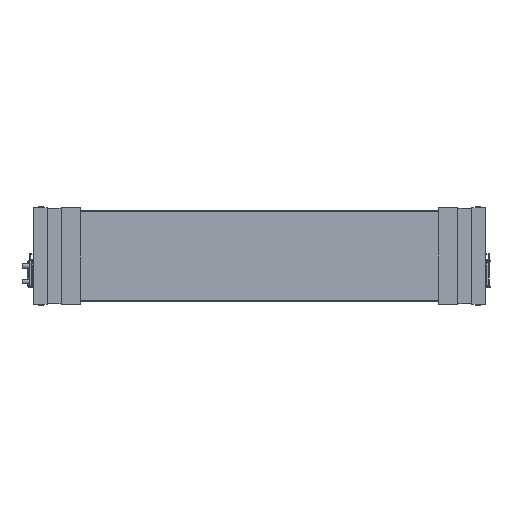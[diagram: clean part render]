
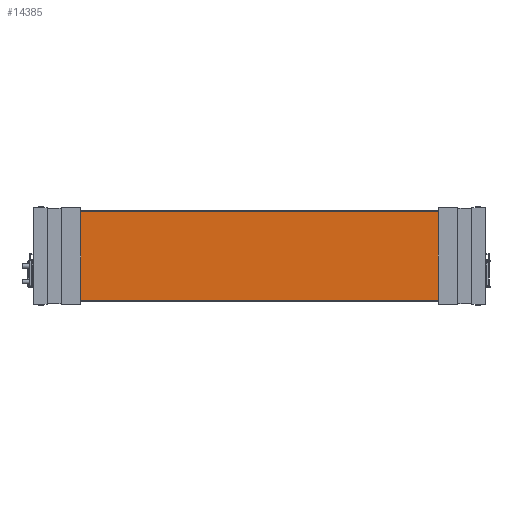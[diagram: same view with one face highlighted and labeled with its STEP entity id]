
A CAD part, front view. The second image highlights one B-rep face of the part: STEP entity #14385.
In plain terms, the highlighted planar face has unit normal (0, -1, 0).
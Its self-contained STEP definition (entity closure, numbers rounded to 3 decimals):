
#6969=FACE_OUTER_BOUND('',#28728,.T.);
#14385=ADVANCED_FACE('',(#6969),#21125,.T.);
#21125=PLANE('',#158381);
#28728=EDGE_LOOP('',(#56339,#56340,#56341,#56342));
#56339=ORIENTED_EDGE('',*,*,#104619,.F.);
#56340=ORIENTED_EDGE('',*,*,#104625,.T.);
#56341=ORIENTED_EDGE('',*,*,#104595,.T.);
#56342=ORIENTED_EDGE('',*,*,#104626,.T.);
#86458=VERTEX_POINT('',#225854);
#86459=VERTEX_POINT('',#225855);
#86482=VERTEX_POINT('',#225902);
#86483=VERTEX_POINT('',#225904);
#104595=EDGE_CURVE('',#86458,#86459,#124915,.T.);
#104619=EDGE_CURVE('',#86482,#86483,#124927,.T.);
#104625=EDGE_CURVE('',#86482,#86458,#124931,.T.);
#104626=EDGE_CURVE('',#86459,#86483,#124932,.T.);
#124915=LINE('',#225853,#143363);
#124927=LINE('',#225903,#143375);
#124931=LINE('',#225914,#143379);
#124932=LINE('',#225915,#143380);
#143363=VECTOR('',#183493,1.);
#143375=VECTOR('',#183531,1.);
#143379=VECTOR('',#183543,1.);
#143380=VECTOR('',#183544,1.);
#158381=AXIS2_PLACEMENT_3D('',#225916,#183545,#183546);
#183493=DIRECTION('',(0.,0.,-1.));
#183531=DIRECTION('',(0.,0.,-1.));
#183543=DIRECTION('',(-1.,0.,0.));
#183544=DIRECTION('',(1.,0.,0.));
#183545=DIRECTION('',(0.,-1.,0.));
#183546=DIRECTION('',(0.,0.,1.));
#225853=CARTESIAN_POINT('',(30.011,-447.95,-560.45));
#225854=CARTESIAN_POINT('',(30.011,-447.95,-431.05));
#225855=CARTESIAN_POINT('',(30.011,-447.95,-545.35));
#225902=CARTESIAN_POINT('',(604.611,-447.95,-431.05));
#225903=CARTESIAN_POINT('',(604.611,-447.95,-560.45));
#225904=CARTESIAN_POINT('',(604.611,-447.95,-545.35));
#225914=CARTESIAN_POINT('',(126.211,-447.95,-431.05));
#225915=CARTESIAN_POINT('',(126.211,-447.95,-545.35));
#225916=CARTESIAN_POINT('',(126.211,-447.95,-560.45));
